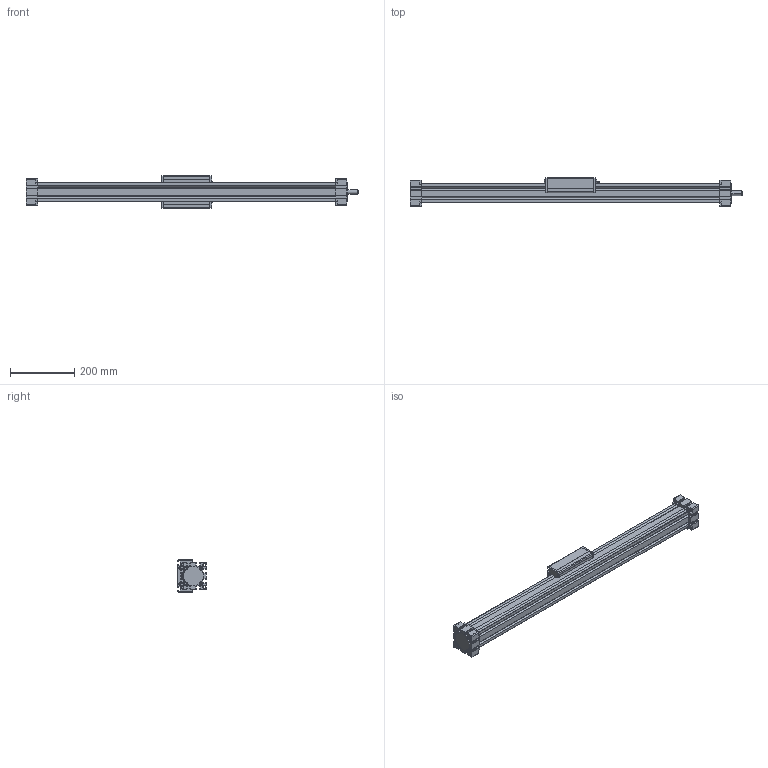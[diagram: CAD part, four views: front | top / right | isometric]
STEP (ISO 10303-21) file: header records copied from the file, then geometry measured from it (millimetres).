
FILE_DESCRIPTION (( 'STEP AP214' ), '1' );
FILE_NAME ('EGTK-60.STEP', '2016-01-14T07:59:00', ( 'admin' ), ( '' ), 'SwSTEP 2.0', 'SolidWorks 2015', '' );
FILE_SCHEMA (( 'AUTOMOTIVE_DESIGN' ));
Length unit declared in the file: millimetre
Products named in the file (6): Kopie von Bahr-EGT-EGK-EGT-60  1  0 0 0  0 0 0  735_Cover Band^EGT(K)60 S0 A0; Kopie von Bahr-EGT-EGK-EGT-60  1  0 0 0  0 0 0  735_EG60 Carriage^EGT(K)60 S0 A0_A; Kopie von Bahr-EGT-EGK-EGT-60  1  0 0 0  0 0 0  735_EGTK End Block 60 (B)^EGT(K)60 S0 A0_EGTK-60 End Block 0-0; Kopie von Bahr-EGT-EGK-EGT-60  1  0 0 0  0 0 0  735_EG60 Extrusion^EGT(K)60 S0 A0; Kopie von Bahr-EGT-EGK-EGT-60  1  0 0 0  0 0 0  735_EGTK End Block 60 (A)^EGT(K)60 S0 A0_EGTK-60 End Block 0-2; EGTK-60
Assembly tree (5 placements, depth 2):
  EGTK-60
    Kopie von Bahr-EGT-EGK-EGT-60  1  0 0 0  0 0 0  735_EGTK End Block 60 (A)^EGT(K)60 S0 A0_EGTK-60 End Block 0-2
    Kopie von Bahr-EGT-EGK-EGT-60  1  0 0 0  0 0 0  735_EG60 Extrusion^EGT(K)60 S0 A0
    Kopie von Bahr-EGT-EGK-EGT-60  1  0 0 0  0 0 0  735_EGTK End Block 60 (B)^EGT(K)60 S0 A0_EGTK-60 End Block 0-0
    Kopie von Bahr-EGT-EGK-EGT-60  1  0 0 0  0 0 0  735_EG60 Carriage^EGT(K)60 S0 A0_A
    Kopie von Bahr-EGT-EGK-EGT-60  1  0 0 0  0 0 0  735_Cover Band^EGT(K)60 S0 A0
Bounding box: 1036 x 90 x 100 mm (x, y, z)
Volume: 3797721.4 mm3; surface area: 476529.3 mm2
Topology: 7 solids, 8 shells, 969 faces, 2773 edges, 1824 vertices
Faces by surface type: plane 715, cylinder 199, cone 33, torus 20, sphere 2
Entity records: 32986 total; most frequent: CARTESIAN_POINT 5736, ORIENTED_EDGE 5538, DIRECTION 5224, EDGE_CURVE 2769, VECTOR 2228, LINE 2228, VERTEX_POINT 1822, AXIS2_PLACEMENT_3D 1498
